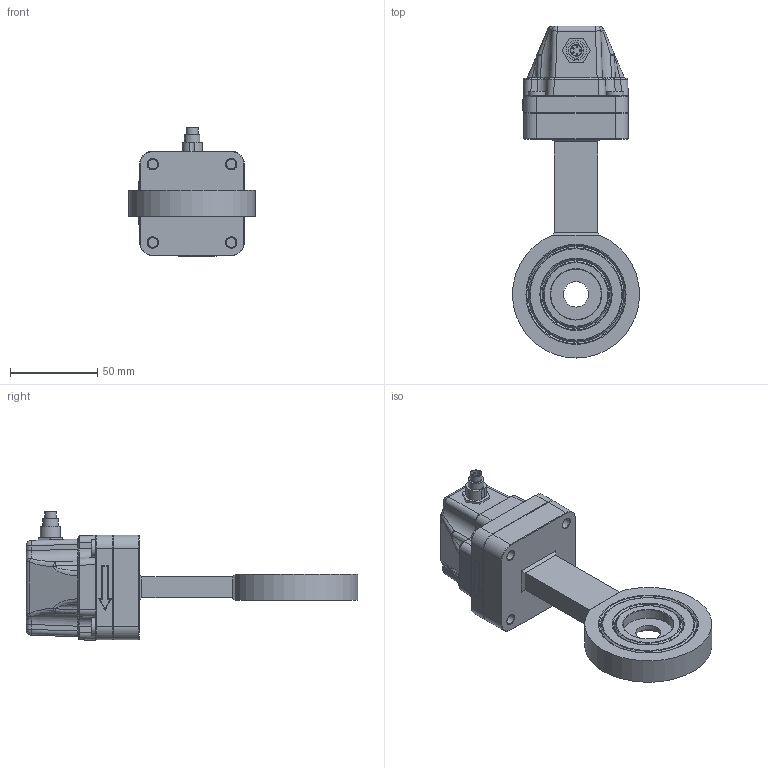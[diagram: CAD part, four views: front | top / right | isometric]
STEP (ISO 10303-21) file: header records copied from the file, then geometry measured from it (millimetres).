
FILE_DESCRIPTION(/* description */ ('Alibre Inc.'),/* implementation_level */ '2;1');
FILE_NAME(/* name */ 'export0',/* time_stamp */ '2012-11-14T14:31:45+01:00',/* author */ (''),/* organization */ (''),/* preprocessor_version */ 'ST-DEVELOPER v14',/* originating_system */ 'Alibre',/* authorisation */ '');
FILE_SCHEMA (('CONFIG_CONTROL_DESIGN'));
Length unit declared in the file: centimetre
Products named in the file (6): ID_1; ID_2; ID_3; ID_4
Bounding box: 72.99 x 190.5 x 73.94 mm (x, y, z)
Volume: 174452.5 mm3; surface area: 61400.7 mm2
Topology: 8 solids, 8 shells, 653 faces, 1436 edges, 843 vertices
Faces by surface type: plane 210, cylinder 177, bspline 117, cone 94, sphere 31, torus 24
Full cylindrical faces by diameter (mm): 0.75 x5, 3.198 x4, 6 x16, 6.2 x1, 6.4 x4, 6.7 x1, 8.9 x1, 9.6 x4, 10 x4, 11 x4, 14.5 x1, 17.2 x2, 21.1 x2, 29 x2
Entity records: 38995 total; most frequent: CARTESIAN_POINT 26885, ORIENTED_EDGE 2344, DIRECTION 2185, EDGE_CURVE 1172, AXIS2_PLACEMENT_3D 971, VERTEX_POINT 730, EDGE_LOOP 714, FACE_BOUND 714
